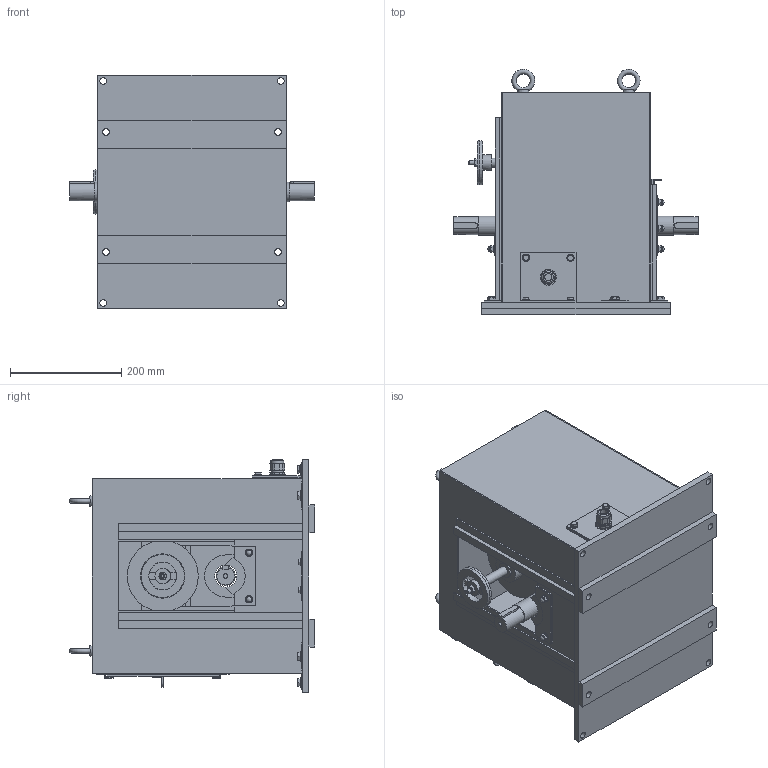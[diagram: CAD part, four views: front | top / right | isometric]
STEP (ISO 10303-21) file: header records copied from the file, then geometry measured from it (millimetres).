
FILE_DESCRIPTION (( 'STEP AP203' ), '1' );
FILE_NAME ('ECE-0512S-05_水門用直流電磁ブレーキ.STEP', '2026-03-02T04:31:49', ( '' ), ( '' ), 'SwSTEP 2.0', 'SolidWorks 2025', '' );
FILE_SCHEMA (( 'CONFIG_CONTROL_DESIGN' ));
Length unit declared in the file: millimetre
Products named in the file (1): ECE-0512S-05_水門用直流電磁ブレーキ
Bounding box: 440 x 441.47 x 420 mm (x, y, z)
Volume: 6674259.5 mm3; surface area: 1873956.1 mm2
Topology: 4 solids, 4 shells, 984 faces, 2483 edges, 1587 vertices
Faces by surface type: plane 676, cone 154, cylinder 138, sphere 12, torus 4
Full cylindrical faces by diameter (mm): 6 x6, 8 x5, 8.5 x4, 10 x12, 12 x12, 13 x18, 16 x1, 18 x7, 20 x1, 22 x1, 23 x1, 28 x3, 29 x1, 32 x2, 35 x3, 40 x1, 50 x2, 128 x1
Entity records: 29616 total; most frequent: CARTESIAN_POINT 6720, ORIENTED_EDGE 4688, DIRECTION 4449, EDGE_CURVE 2344, LINE 1597, VECTOR 1597, VERTEX_POINT 1543, AXIS2_PLACEMENT_3D 1426
